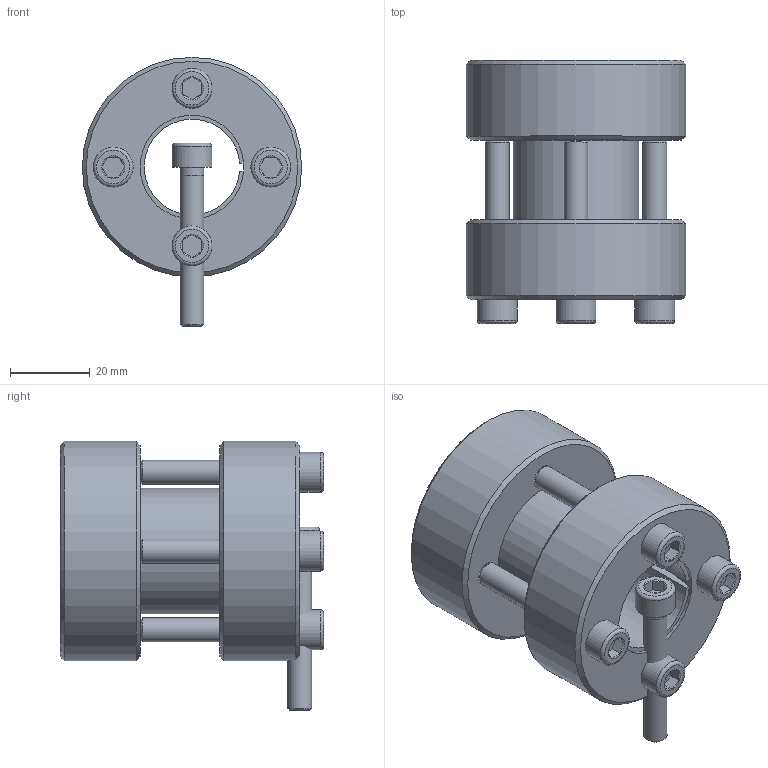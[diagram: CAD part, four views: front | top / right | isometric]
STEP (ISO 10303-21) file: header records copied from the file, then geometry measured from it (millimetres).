
FILE_DESCRIPTION( ( 'Unknown' ), '1' );
FILE_NAME( 'C:/Dokumente und Einstellungen/Sven/Desktop/homepage/cad - homepage/KBS95/KBS 95 - 24 x 55.stp', 'Unknown', ( 'Unknown' ), ( 'Unknown' ), 'XStep 1.0', 'Unknown', ' ' );
FILE_SCHEMA( ( 'automotive_design' ) );
Length unit declared in the file: millimetre
Products named in the file (3): Assem1; KBS 95 - 24 x 55; ISO EN DIN 4762 M6x40
Bounding box: 55 x 66 x 67.5 mm (x, y, z)
Volume: 163863.7 mm3; surface area: 51543.8 mm2
Topology: 7 solids, 7 shells, 181 faces, 379 edges, 232 vertices
Faces by surface type: plane 80, cone 47, cylinder 44, torus 10
Full cylindrical faces by diameter (mm): 5 x5, 6 x26, 10 x5, 55 x4
Entity records: 1702 total; most frequent: CARTESIAN_POINT 295, DIRECTION 252, ORIENTED_EDGE 190, AXIS2_PLACEMENT_3D 108, EDGE_LOOP 98, EDGE_CURVE 95, VERTEX_POINT 71, FACE_OUTER_BOUND 69
